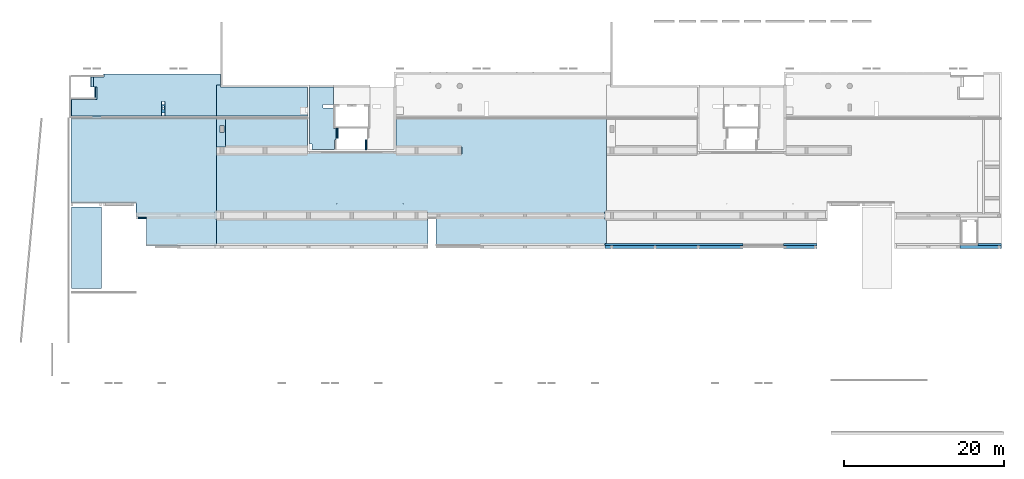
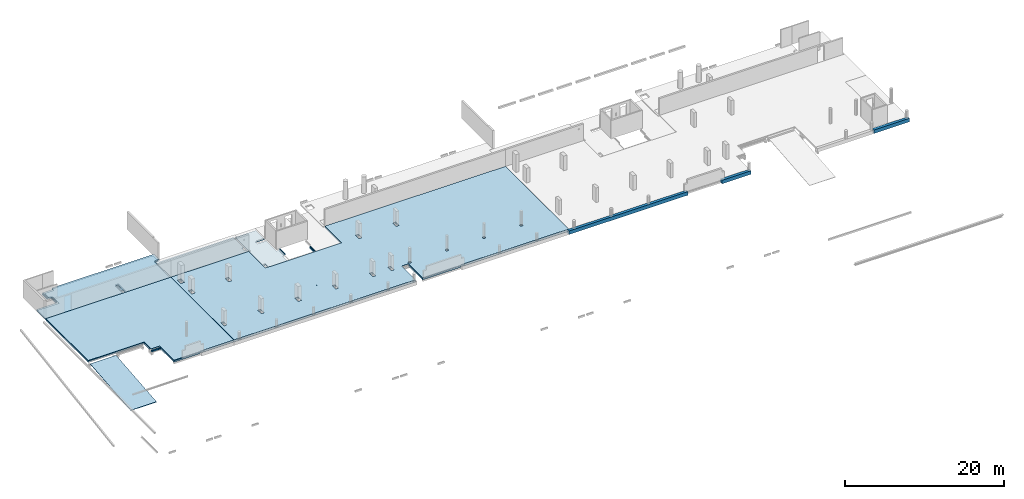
# One storey, part 4 of 10: 17 slabs, 4 beams, 24 openings.
"""IFC2X3 building model written with IfcOpenShell, lengths in millimetres."""

from ifc_helpers import new_model, entity, si_unit, converted_unit, derived_unit, direction, frame, frame_2d, origin, origin_2d_with_axis, place, context, subcontext, project, spatial, polyline, rectangle, circle, outline, extrude, clip, halfspace, faceted_brep, material, layer, layer_set, layer_usage, type_object, element, save


model = new_model("IFC2X3")

# Units and contexts
model_context = context("Model", 3, precision=0.01, world=origin(), true_north=direction((6.12303176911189e-17, 1.0)))
body_context = subcontext(model_context, "Body", "Model", "MODEL_VIEW")
ifc_project = project(units=[si_unit("LENGTHUNIT", "METRE", prefix="MILLI"), si_unit("AREAUNIT", "SQUARE_METRE"), si_unit("VOLUMEUNIT", "CUBIC_METRE"), converted_unit("PLANEANGLEUNIT", "DEGREE", entity("IfcRatioMeasure", 0.0174532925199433), si_unit("PLANEANGLEUNIT", "RADIAN"), dimensions=[0, 0, 0, 0, 0, 0, 0]), si_unit("MASSUNIT", "GRAM", prefix="KILO"), derived_unit("MASSDENSITYUNIT", [(si_unit("MASSUNIT", "GRAM", prefix="KILO"), 1), (si_unit("LENGTHUNIT", "METRE"), -3)]), si_unit("TIMEUNIT", "SECOND"), si_unit("FREQUENCYUNIT", "HERTZ"), si_unit("THERMODYNAMICTEMPERATUREUNIT", "DEGREE_CELSIUS"), derived_unit("THERMALTRANSMITTANCEUNIT", [(si_unit("MASSUNIT", "GRAM", prefix="KILO"), 1), (si_unit("THERMODYNAMICTEMPERATUREUNIT", "KELVIN"), -1), (si_unit("TIMEUNIT", "SECOND"), -3)]), derived_unit("VOLUMETRICFLOWRATEUNIT", [(si_unit("LENGTHUNIT", "METRE"), 3), (si_unit("TIMEUNIT", "SECOND"), -1)]), si_unit("ELECTRICCURRENTUNIT", "AMPERE"), si_unit("ELECTRICVOLTAGEUNIT", "VOLT"), si_unit("POWERUNIT", "WATT"), si_unit("FORCEUNIT", "NEWTON", prefix="KILO"), si_unit("ILLUMINANCEUNIT", "LUX"), si_unit("LUMINOUSFLUXUNIT", "LUMEN"), si_unit("LUMINOUSINTENSITYUNIT", "CANDELA"), derived_unit("USERDEFINED", [(si_unit("MASSUNIT", "GRAM", prefix="KILO"), -1), (si_unit("LENGTHUNIT", "METRE"), -2), (si_unit("TIMEUNIT", "SECOND"), 3), (si_unit("LUMINOUSFLUXUNIT", "LUMEN"), 1)]), derived_unit("LINEARVELOCITYUNIT", [(si_unit("LENGTHUNIT", "METRE"), 1), (si_unit("TIMEUNIT", "SECOND"), -1)]), si_unit("PRESSUREUNIT", "PASCAL"), derived_unit("USERDEFINED", [(si_unit("LENGTHUNIT", "METRE"), -2), (si_unit("MASSUNIT", "GRAM", prefix="KILO"), 1), (si_unit("TIMEUNIT", "SECOND"), -2)])], contexts=[model_context])

# Site, building, storey
site_placement = place(None, origin())
site = spatial("IfcSite", under=ifc_project, at=site_placement, Name="Default", CompositionType="ELEMENT")
building_placement = place(site_placement, origin())
building = spatial("IfcBuilding", under=site, at=building_placement, Name="niet gebruiken", CompositionType="ELEMENT")
storey_placement = place(building_placement, frame((0.0, 0.0, 6610.0)))
storey = spatial("IfcBuildingStorey", under=building, at=storey_placement, Name="01c derde tussenverdieping", CompositionType="ELEMENT", Elevation=6610.0)

# Beams
ifc_material_1 = material(Name="NLRS_f2_beton prefab")
beam_type_1 = type_object("IfcBeamType", Name="NLRS_28.11_SF_WPB_prefabbeton balk enkele sponning_gen:600x540/200x200", PredefinedType="BEAM")
beam_1_placement = place(storey_placement, frame((74750.0, 24776.0, -530.0)))
element("IfcBeam", 1, at=beam_1_placement, inside=storey, type_object=beam_type_1, material=ifc_material_1, Name="NLRS_28.11_SF_WPB_prefabbeton balk enkele sponning_gen:600x540/200x200", ObjectType="NLRS_28.11_SF_WPB_prefabbeton balk enkele sponning_gen:600x540/200x200", context=body_context, shape_type="Brep", body=[
    faceted_brep([(0.0, 600.0, 0.0), (0.0, 0.0, 0.0), (0.0, 0.0, 540.0), (0.0, 400.0, 540.0), (0.0, 400.0, 530.0), (0.0, 400.0, 460.0), (0.0, 400.0, 200.0), (0.0, 600.0, 200.0), (17250.0, 600.0, 200.0), (17250.0, 400.0, 200.0), (17250.0, 400.0, 460.0), (17250.0, 325.0, 460.0), (17250.0, 325.0, 530.0), (17250.0, 400.0, 530.0), (17250.0, 400.0, 540.0), (17250.0, 0.0, 540.0), (17250.0, 0.0, 0.0), (17250.0, 600.0, 0.0), (16850.0, 400.0, 530.0), (16850.0, 400.0, 460.0), (16850.0, 325.0, 460.0), (16850.0, 325.0, 530.0)], [[[0, 1, 2, 3, 4, 5, 6, 7]], [[8, 9, 10, 11, 12, 13, 14, 15, 16, 17]], [[3, 2, 15, 14]], [[3, 14, 13, 18, 19, 10, 9, 6, 5, 4]], [[7, 6, 9, 8]], [[0, 7, 8, 17]], [[1, 0, 17, 16]], [[2, 1, 16, 15]], [[19, 20, 11, 10]], [[20, 21, 12, 11]], [[20, 19, 18, 21]], [[21, 18, 13, 12]]]),
])
beam_2_placement = place(storey_placement, frame((97000.0, 24776.0, -530.0)))
element("IfcBeam", 2, at=beam_2_placement, inside=storey, type_object=beam_type_1, material=ifc_material_1, Name="NLRS_28.11_SF_WPB_prefabbeton balk enkele sponning_gen:600x540/200x200", ObjectType="NLRS_28.11_SF_WPB_prefabbeton balk enkele sponning_gen:600x540/200x200", context=body_context, shape_type="Brep", body=[
    faceted_brep([(0.0, 600.0, 0.0), (0.0, 0.0, 0.0), (0.0, 0.0, 540.0), (0.0, 400.0, 540.0), (0.0, 400.0, 530.0), (0.0, 325.0, 530.0), (0.0, 325.0, 460.0), (0.0, 400.0, 460.0), (0.0, 400.0, 200.0), (0.0, 600.0, 200.0), (4205.0, 600.0, 200.0), (4205.0, 400.0, 200.0), (4205.0, 400.0, 460.0), (4205.0, 400.0, 530.0), (4205.0, 400.0, 540.0), (4205.0, 0.0, 540.0), (4205.0, 0.0, 0.0), (4205.0, 600.0, 0.0), (400.0, 400.0, 460.0), (400.0, 400.0, 530.0), (400.0, 325.0, 460.0), (400.0, 325.0, 530.0)], [[[0, 1, 2, 3, 4, 5, 6, 7, 8, 9]], [[10, 11, 12, 13, 14, 15, 16, 17]], [[3, 2, 15, 14]], [[3, 14, 13, 12, 11, 8, 7, 18, 19, 4]], [[9, 8, 11, 10]], [[0, 9, 10, 17]], [[1, 0, 17, 16]], [[2, 1, 16, 15]], [[20, 18, 7, 6]], [[18, 20, 21, 19]], [[21, 20, 6, 5]], [[19, 21, 5, 4]]]),
])
beam_3_placement = place(storey_placement, frame((119020.0, 24776.0, -530.0)))
element("IfcBeam", 3, at=beam_3_placement, inside=storey, type_object=beam_type_1, material=ifc_material_1, Name="NLRS_28.11_SF_WPB_prefabbeton balk enkele sponning_gen:600x540/200x200", ObjectType="NLRS_28.11_SF_WPB_prefabbeton balk enkele sponning_gen:600x540/200x200", context=body_context, shape_type="Brep", body=[
    faceted_brep([(0.0, 0.0, 540.0), (0.0, 400.0, 540.0), (0.0, 400.0, 530.0), (0.0, 400.0, 460.0), (0.0, 400.0, 0.0), (0.0, 0.0, 0.0), (5180.0, 600.0, 200.0), (5180.0, 400.0, 200.0), (5180.0, 400.0, 460.0), (5180.0, 400.0, 530.0), (5180.0, 400.0, 540.0), (5180.0, 0.0, 540.0), (5180.0, 0.0, 0.0), (5180.0, 600.0, 0.0), (2225.0, 400.0, 200.0), (2225.0, 400.0, 0.0), (2225.0, 600.0, 200.0), (2225.0, 600.0, 0.0)], [[[0, 1, 2, 3, 4, 5]], [[6, 7, 8, 9, 10, 11, 12, 13]], [[1, 0, 11, 10]], [[7, 14, 15, 4, 3, 2, 1, 10, 9, 8]], [[7, 6, 16, 14]], [[6, 13, 17, 16]], [[13, 12, 5, 4, 15, 17]], [[0, 5, 12, 11]], [[15, 14, 16, 17]]]),
])
beam_type_2 = type_object("IfcBeamType", Name="NLRS_28.11_SF_WPB_prefabbeton balk recht_gen:200x140", PredefinedType="BEAM")
beam_4_placement = place(storey_placement, frame((16345.0, 28481.0, -330.0)))
element("IfcBeam", 4, at=beam_4_placement, inside=storey, type_object=beam_type_2, material=ifc_material_1, Name="NLRS_28.11_SF_WPB_prefabbeton balk recht_gen:200x140", ObjectType="NLRS_28.11_SF_WPB_prefabbeton balk recht_gen:200x140", context=body_context, shape_type="Brep", body=[
    faceted_brep([(0.0, 200.0, 140.0), (0.0, 200.0, 0.0), (0.0, 0.0, 0.0), (0.0, 0.0, 140.0), (1270.0, 0.0, 0.0), (1270.0, 200.0, 0.0), (1270.0, 200.0, 140.0), (1270.0, 180.0, 140.0), (1270.0, 180.0, 5.0), (1270.0, 0.0, 5.0), (1250.0, 0.0, 5.0), (1250.0, 0.0, 140.0), (1250.0, 180.0, 140.0), (1250.0, 180.0, 5.0)], [[[0, 1, 2, 3]], [[4, 5, 6, 7, 8, 9]], [[1, 0, 6, 5]], [[2, 1, 5, 4]], [[3, 2, 4, 9, 10, 11]], [[0, 3, 11, 12, 7, 6]], [[8, 13, 10, 9]], [[10, 13, 12, 11]], [[13, 8, 7, 12]]]),
])

# Slabs
ifc_layer_1 = layer(ifc_material_1, 255.0)
ifc_layer_set_1 = layer_set([ifc_layer_1], Name="Floor:NLRS_23.21_FL_kanaalplaat d=255_gen")
ifc_layer_usage_1 = layer_usage(ifc_layer_set_1, "AXIS3", "POSITIVE", 0.0)
slab_1_placement = place(storey_placement, origin())
element("IfcSlab", 5, at=slab_1_placement, inside=storey, material=ifc_layer_usage_1, Name="Floor:NLRS_23.21_FL_kanaalplaat d=255_gen", ObjectType="Floor:NLRS_23.21_FL_kanaalplaat d=255_gen", PredefinedType="FLOOR", context=body_context, shape_type="SweptSolid", body=[
    extrude(outline(polyline([(-2024.99314767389, -11025.0), (8560.00685232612, -11025.0), (8560.00685232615, 7090.0), (-3155.02055697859, 7090.0), (-3155.02055697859, 6860.0), (-3379.99314767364, 6860.0), (-3379.99314767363, -2925.0), (-2024.99314767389, -2925.0), (-2024.99314767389, -11025.0)])), frame((19260.0, 32480.9931476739, -70.0), z_axis=(0.0, 0.0, -1.0), x_axis=(0.0, 1.0, 0.0)), (0.0, 0.0, 1.0), 255.000000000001),
])
ifc_layer_usage_2 = layer_usage(ifc_layer_set_1, "AXIS3", "POSITIVE", 0.0)
slab_2_placement = place(storey_placement, origin())
element("IfcSlab", 6, at=slab_2_placement, inside=storey, material=ifc_layer_usage_2, Name="Floor:NLRS_23.21_FL_kanaalplaat d=255_gen", ObjectType="Floor:NLRS_23.21_FL_kanaalplaat d=255_gen", PredefinedType="FLOOR", context=body_context, shape_type="SweptSolid", body=[
    extrude(rectangle(XDim=3240.00000000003, YDim=26329.9999999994, at=frame_2d((2.1600499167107e-12, 1.81898940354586e-12), x_axis=(1.0, 0.0))), frame((39535.0, 26816.0, -70.0), z_axis=(0.0, 0.0, -1.0), x_axis=(0.0, 1.0, 0.0)), (0.0, 0.0, 1.0), 255.000000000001),
])
ifc_layer_usage_3 = layer_usage(ifc_layer_set_1, "AXIS3", "POSITIVE", 0.0)
slab_3_placement = place(storey_placement, frame((26370.0, 29101.0, -325.0)))
element("IfcSlab", 7, at=slab_3_placement, inside=storey, material=ifc_layer_usage_3, Name="Floor:NLRS_23.21_FL_kanaalplaat d=255_gen", ObjectType="Floor:NLRS_23.21_FL_kanaalplaat d=255_gen", PredefinedType="FLOOR", context=body_context, shape_type="SweptSolid", body=[
    extrude(rectangle(XDim=3614.99999999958, YDim=10199.999999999, at=frame_2d((18105.0, 4162.49999999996), x_axis=(0.0, -1.0))), frame((24290.0, 5970.0, 255.0), z_axis=(0.0, 0.0, -1.0), x_axis=(-1.0, 0.0, 0.0)), (0.0, 0.0, 1.0), 255.000000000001),
])

# Slab, openings
slab_4_placement = place(storey_placement, frame((26370.0, 29101.0, -325.0)))
slab_4 = element("IfcSlab", 8, at=slab_4_placement, inside=storey, material=ifc_layer_usage_3, Name="Floor:NLRS_23.21_FL_kanaalplaat d=255_gen:2", ObjectType="Floor:NLRS_23.21_FL_kanaalplaat d=255_gen", PredefinedType="FLOOR", context=body_context, shape_type="SweptSolid", body=[
    extrude(outline(polyline([(-2000.0, -5745.02740930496), (24290.0, -5745.02740930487), (24290.0, 1465.0), (12985.0, 1465.0), (12985.0, 1765.0), (1935.0, 1765.0), (1935.0, 1465.0), (-6260.0, 1465.0), (-6260.0, 2355.0), (1915.0, 2355.0), (1915.0, 5970.0), (-24290.0, 5970.0), (-24290.0, -5745.0), (-24070.0, -5745.0), (-24070.0, -5970.0), (-2000.0, -5970.0), (-2000.0, -5745.02740930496)])), frame((24290.0, 5970.0, 255.0), z_axis=(0.0, 0.0, -1.0), x_axis=(-1.0, 0.0, 0.0)), (0.0, 0.0, 1.0), 255.000000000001),
])
opening_1_placement = place(storey_placement, frame((26370.0, 29101.0, -325.0)))
element("IfcOpeningElement", 9, at=opening_1_placement, cuts=slab_4, ObjectType="Opening", context=body_context, shape_type="SweptSolid", body=[
    extrude(circle(Radius=37.5, at=frame_2d((1060.0, -4715.0), x_axis=(1.0, 0.0))), frame((24290.0, 5970.0, 255.0), z_axis=(0.0, 0.0, -1.0), x_axis=(-1.0, 0.0, 0.0)), (0.0, 0.0, 1.0), 255.000000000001),
])
opening_2_placement = place(storey_placement, frame((26370.0, 29101.0, -325.0)))
element("IfcOpeningElement", 10, at=opening_2_placement, cuts=slab_4, ObjectType="Opening", context=body_context, shape_type="SweptSolid", body=[
    extrude(circle(Radius=37.5, at=frame_2d((9310.0, -4715.0), x_axis=(1.0, 0.0))), frame((24290.0, 5970.0, 255.0), z_axis=(0.0, 0.0, -1.0), x_axis=(-1.0, 0.0, 0.0)), (0.0, 0.0, 1.0), 255.000000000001),
])

ifc_material_2 = material(Name="NLRS_f2_beton ihwg")
ifc_layer_2 = layer(ifc_material_2, 70.0)
ifc_layer_set_2 = layer_set([ifc_layer_2], Name="Floor:NLRS_23.21_FL_druklaag d=70 - gevlinderd en ingestrooid_gen")
ifc_layer_usage_4 = layer_usage(ifc_layer_set_2, "AXIS3", "POSITIVE", 0.0)
slab_5_placement = place(storey_placement, frame((26370.0, 25101.0, -70.0)))
slab_5 = element("IfcSlab", 11, at=slab_5_placement, inside=storey, material=ifc_layer_usage_4, Name="Floor:NLRS_23.21_FL_druklaag d=70 - gevlinderd en ingestrooid_gen", ObjectType="Floor:NLRS_23.21_FL_druklaag d=70 - gevlinderd en ingestrooid_gen", PredefinedType="FLOOR", context=body_context, shape_type="SweptSolid", body=[
    extrude(outline(polyline([(24290.0, -7905.0), (24290.0, 7980.0), (12985.0, 7980.0), (12985.0, 3775.0), (1935.0, 3775.0), (1935.0, 7980.0), (-24290.0, 7980.0), (-24290.0, -7905.0), (-8540.0, -7905.0), (-8540.0, -7980.0), (-3030.0, -7980.0), (-3030.0, -4400.0), (-2040.0, -4400.0), (-2040.0, -7905.0), (24290.0, -7905.0)])), frame((24290.0, 7980.0, 70.0), z_axis=(0.0, 0.0, -1.0), x_axis=(-1.0, 0.0, 0.0)), (0.0, 0.0, 1.0), 70.0000000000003),
])
opening_3_placement = place(storey_placement, frame((26370.0, 25101.0, -70.0)))
element("IfcOpeningElement", 12, at=opening_3_placement, cuts=slab_5, ObjectType="Opening", context=body_context, shape_type="SweptSolid", body=[
    extrude(circle(Radius=37.5, at=frame_2d((1060.0, -2725.0), x_axis=(1.0, 0.0))), frame((24290.0, 7980.0, 70.0), z_axis=(0.0, 0.0, -1.0), x_axis=(-1.0, 0.0, 0.0)), (0.0, 0.0, 1.0), 70.0000000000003),
])
opening_4_placement = place(storey_placement, frame((26370.0, 25101.0, -70.0)))
element("IfcOpeningElement", 13, at=opening_4_placement, cuts=slab_5, ObjectType="Opening", context=body_context, shape_type="SweptSolid", body=[
    extrude(circle(Radius=37.5, at=frame_2d((9310.0, -2725.0), x_axis=(1.0, 0.0))), frame((24290.0, 7980.0, 70.0), z_axis=(0.0, 0.0, -1.0), x_axis=(-1.0, 0.0, 0.0)), (0.0, 0.0, 1.0), 70.0000000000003),
])
opening_5_placement = place(slab_5_placement, frame((655.0, 14555.0, 70.0)))
element("IfcOpeningElement", 14, at=opening_5_placement, cuts=slab_5, Name="Floor:NLRS_23.21_FL_druklaag d=70 - gevlinderd en ingestrooid_gen:2", ObjectType="Opening", context=body_context, shape_type="SweptSolid", body=[
    extrude(rectangle(XDim=849.999999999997, YDim=499.999999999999, at=origin_2d_with_axis()), frame((0.0, 0.0, 0.0), z_axis=(0.0, 0.0, -1.0), x_axis=(0.0, -1.0, 0.0)), (0.0, 0.0, 1.0), 70.0000000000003),
])
opening_6_placement = place(slab_5_placement, frame((6030.0, 11880.0, 70.0)))
element("IfcOpeningElement", 15, at=opening_6_placement, cuts=slab_5, Name="Floor:NLRS_23.21_FL_druklaag d=70 - gevlinderd en ingestrooid_gen:3", ObjectType="Opening", context=body_context, shape_type="SweptSolid", body=[
    extrude(rectangle(XDim=850.000000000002, YDim=499.999999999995, at=origin_2d_with_axis()), frame((0.0, 0.0, 0.0), z_axis=(0.0, 0.0, -1.0), x_axis=(0.0, -1.0, 0.0)), (0.0, 0.0, 1.0), 70.0000000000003),
])
opening_7_placement = place(slab_5_placement, frame((655.0, 11880.0, 70.0)))
element("IfcOpeningElement", 16, at=opening_7_placement, cuts=slab_5, Name="Floor:NLRS_23.21_FL_druklaag d=70 - gevlinderd en ingestrooid_gen:4", ObjectType="Opening", context=body_context, shape_type="SweptSolid", body=[
    extrude(rectangle(XDim=500.000000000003, YDim=850.000000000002, at=origin_2d_with_axis()), frame((0.0, 0.0, 0.0), z_axis=(0.0, 0.0, -1.0), x_axis=(-1.0, 0.0, 0.0)), (0.0, 0.0, 1.0), 70.0000000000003),
])
opening_8_placement = place(slab_5_placement, frame((24905.0, 11880.0, 70.0)))
element("IfcOpeningElement", 17, at=opening_8_placement, cuts=slab_5, Name="Floor:NLRS_23.21_FL_druklaag d=70 - gevlinderd en ingestrooid_gen:5", ObjectType="Opening", context=body_context, shape_type="SweptSolid", body=[
    extrude(rectangle(XDim=400.000000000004, YDim=849.999999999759, at=origin_2d_with_axis()), frame((0.0, 0.0, 0.0), z_axis=(0.0, 0.0, -1.0), x_axis=(-1.0, 0.0, 0.0)), (0.0, 0.0, 1.0), 70.0000000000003),
])
opening_9_placement = place(slab_5_placement, frame((30305.0, 11880.0, 70.0)))
element("IfcOpeningElement", 18, at=opening_9_placement, cuts=slab_5, Name="Floor:NLRS_23.21_FL_druklaag d=70 - gevlinderd en ingestrooid_gen:6", ObjectType="Opening", context=body_context, shape_type="SweptSolid", body=[
    extrude(rectangle(XDim=399.999999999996, YDim=850.000000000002, at=origin_2d_with_axis()), frame((0.0, 0.0, 0.0), z_axis=(0.0, 0.0, -1.0), x_axis=(-1.0, 0.0, 0.0)), (0.0, 0.0, 1.0), 70.0000000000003),
])
opening_10_placement = place(slab_5_placement, frame((655.450424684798, 3780.0, 70.0)))
element("IfcOpeningElement", 19, at=opening_10_placement, cuts=slab_5, Name="Floor:NLRS_23.21_FL_druklaag d=70 - gevlinderd en ingestrooid_gen:7", ObjectType="Opening", context=body_context, shape_type="SweptSolid", body=[
    extrude(rectangle(XDim=849.999999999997, YDim=400.900849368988, at=origin_2d_with_axis()), frame((0.0, 0.0, 0.0), z_axis=(0.0, 0.0, -1.0), x_axis=(0.0, -1.0, 0.0)), (0.0, 0.0, 1.0), 70.0000000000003),
])
opening_11_placement = place(slab_5_placement, frame((6030.0, 3780.0, 70.0)))
element("IfcOpeningElement", 20, at=opening_11_placement, cuts=slab_5, Name="Floor:NLRS_23.21_FL_druklaag d=70 - gevlinderd en ingestrooid_gen:8", ObjectType="Opening", context=body_context, shape_type="SweptSolid", body=[
    extrude(rectangle(XDim=850.000000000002, YDim=400.0, at=origin_2d_with_axis()), frame((0.0, 0.0, 0.0), z_axis=(0.0, 0.0, -1.0), x_axis=(0.0, -1.0, 0.0)), (0.0, 0.0, 1.0), 70.0000000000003),
])
opening_12_placement = place(slab_5_placement, frame((11432.2547240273, 3780.0, 70.0)))
element("IfcOpeningElement", 21, at=opening_12_placement, cuts=slab_5, Name="Floor:NLRS_23.21_FL_druklaag d=70 - gevlinderd en ingestrooid_gen:9", ObjectType="Opening", context=body_context, shape_type="SweptSolid", body=[
    extrude(rectangle(XDim=850.000000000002, YDim=504.509448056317, at=origin_2d_with_axis()), frame((0.0, 0.0, 0.0), z_axis=(0.0, 0.0, -1.0), x_axis=(0.0, -1.0, 0.0)), (0.0, 0.0, 1.0), 70.0000000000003),
])
opening_13_placement = place(slab_5_placement, frame((16830.0, 3780.0, 70.0)))
element("IfcOpeningElement", 22, at=opening_13_placement, cuts=slab_5, Name="Floor:NLRS_23.21_FL_druklaag d=70 - gevlinderd en ingestrooid_gen:10", ObjectType="Opening", context=body_context, shape_type="SweptSolid", body=[
    extrude(rectangle(XDim=850.000000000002, YDim=399.999999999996, at=origin_2d_with_axis()), frame((0.0, 0.0, 0.0), z_axis=(0.0, 0.0, -1.0), x_axis=(0.0, -1.0, 0.0)), (0.0, 0.0, 1.0), 70.0000000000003),
])
opening_14_placement = place(slab_5_placement, frame((22230.0, 3780.0, 70.0)))
element("IfcOpeningElement", 23, at=opening_14_placement, cuts=slab_5, Name="Floor:NLRS_23.21_FL_druklaag d=70 - gevlinderd en ingestrooid_gen:11", ObjectType="Opening", context=body_context, shape_type="SweptSolid", body=[
    extrude(rectangle(XDim=850.000000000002, YDim=399.999999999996, at=origin_2d_with_axis()), frame((0.0, 0.0, 0.0), z_axis=(0.0, 0.0, -1.0), x_axis=(0.0, -1.0, 0.0)), (0.0, 0.0, 1.0), 70.0000000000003),
])
opening_15_placement = place(slab_5_placement, frame((24905.0, 3780.0, 70.0)))
element("IfcOpeningElement", 24, at=opening_15_placement, cuts=slab_5, Name="Floor:NLRS_23.21_FL_druklaag d=70 - gevlinderd en ingestrooid_gen:12", ObjectType="Opening", context=body_context, shape_type="SweptSolid", body=[
    extrude(rectangle(XDim=850.000000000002, YDim=399.999999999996, at=origin_2d_with_axis()), frame((0.0, 0.0, 0.0), z_axis=(0.0, 0.0, -1.0), x_axis=(0.0, -1.0, 0.0)), (0.0, 0.0, 1.0), 70.0000000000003),
])
opening_16_placement = place(slab_5_placement, frame((27630.0, 3780.0, 70.0)))
element("IfcOpeningElement", 25, at=opening_16_placement, cuts=slab_5, Name="Floor:NLRS_23.21_FL_druklaag d=70 - gevlinderd en ingestrooid_gen:13", ObjectType="Opening", context=body_context, shape_type="SweptSolid", body=[
    extrude(circle(Radius=200.0, at=origin_2d_with_axis()), frame((0.0, 0.0, 0.0), z_axis=(0.0, 0.0, -1.0), x_axis=(1.0, 0.0, 0.0)), (0.0, 0.0, 1.0), 70.0000000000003),
])
opening_17_placement = place(slab_5_placement, frame((33030.0, 3780.0, 70.0)))
element("IfcOpeningElement", 26, at=opening_17_placement, cuts=slab_5, Name="Floor:NLRS_23.21_FL_druklaag d=70 - gevlinderd en ingestrooid_gen:14", ObjectType="Opening", context=body_context, shape_type="SweptSolid", body=[
    extrude(circle(Radius=200.0, at=origin_2d_with_axis()), frame((0.0, 0.0, 0.0), z_axis=(0.0, 0.0, -1.0), x_axis=(1.0, 0.0, 0.0)), (0.0, 0.0, 1.0), 70.0000000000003),
])
opening_18_placement = place(slab_5_placement, frame((38430.0, 3780.0, 70.0)))
element("IfcOpeningElement", 27, at=opening_18_placement, cuts=slab_5, Name="Floor:NLRS_23.21_FL_druklaag d=70 - gevlinderd en ingestrooid_gen:15", ObjectType="Opening", context=body_context, shape_type="SweptSolid", body=[
    extrude(circle(Radius=200.0, at=origin_2d_with_axis()), frame((0.0, 0.0, 0.0), z_axis=(0.0, 0.0, -1.0), x_axis=(1.0, 0.0, 0.0)), (0.0, 0.0, 1.0), 70.0000000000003),
])
opening_19_placement = place(slab_5_placement, frame((43830.0, 3780.0, 70.0)))
element("IfcOpeningElement", 28, at=opening_19_placement, cuts=slab_5, Name="Floor:NLRS_23.21_FL_druklaag d=70 - gevlinderd en ingestrooid_gen:16", ObjectType="Opening", context=body_context, shape_type="SweptSolid", body=[
    extrude(circle(Radius=200.0, at=origin_2d_with_axis()), frame((0.0, 0.0, 0.0), z_axis=(0.0, 0.0, -1.0), x_axis=(1.0, 0.0, 0.0)), (0.0, 0.0, 1.0), 70.0000000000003),
])

# Slabs
ifc_layer_usage_5 = layer_usage(ifc_layer_set_2, "AXIS3", "POSITIVE", 0.0)
slab_6_placement = place(storey_placement, origin())
element("IfcSlab", 29, at=slab_6_placement, inside=storey, material=ifc_layer_usage_5, Name="Floor:NLRS_23.21_FL_druklaag d=70 - gevlinderd en ingestrooid_gen", ObjectType="Floor:NLRS_23.21_FL_druklaag d=70 - gevlinderd en ingestrooid_gen", PredefinedType="FLOOR", context=body_context, shape_type="SweptSolid", body=[
    extrude(outline(polyline([(337.0, -9758.0), (10972.0, -9758.0), (10972.0, 8367.0), (-4913.0, 8367.0), (-4913.0, 3417.0), (-4988.0, 3417.0), (-4988.0, -388.0), (-1408.0, -388.0), (-1408.0, -1638.0), (337.0, -1638.0), (337.0, -9758.0)])), frame((17983.0, 30089.0, 0.0), z_axis=(0.0, 0.0, -1.0), x_axis=(0.0, 1.0, 0.0)), (0.0, 0.0, 1.0), 70.0000000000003),
])
ifc_layer_usage_6 = layer_usage(ifc_layer_set_1, "AXIS3", "POSITIVE", 0.0)
slab_7_placement = place(storey_placement, origin())
element("IfcSlab", 30, at=slab_7_placement, inside=storey, material=ifc_layer_usage_6, Name="Floor:NLRS_23.21_FL_kanaalplaat d=255_gen", ObjectType="Floor:NLRS_23.21_FL_kanaalplaat d=255_gen", PredefinedType="FLOOR", context=body_context, shape_type="SweptSolid", body=[
    extrude(outline(polyline([(-1732.49999999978, -11947.4999999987), (1807.49999999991, -11947.4999999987), (1807.49999999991, 9092.50000000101), (1582.49999999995, 9092.50000000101), (1582.49999999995, 9312.50000000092), (-1657.50000000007, 9312.50000000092), (-1657.50000000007, -6457.50000000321), (-1732.49999999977, -6457.50000000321), (-1732.49999999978, -11947.4999999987)])), frame((65637.4999999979, 26853.5, -70.0), z_axis=(0.0, 0.0, -1.0), x_axis=(0.0, 1.0, 0.0)), (0.0, 0.0, 1.0), 255.000000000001),
])
ifc_layer_usage_7 = layer_usage(ifc_layer_set_1, "AXIS3", "POSITIVE", 0.0)
slab_8_placement = place(storey_placement, origin())
element("IfcSlab", 31, at=slab_8_placement, inside=storey, material=ifc_layer_usage_7, Name="Floor:NLRS_23.21_FL_kanaalplaat d=255_gen", ObjectType="Floor:NLRS_23.21_FL_kanaalplaat d=255_gen", PredefinedType="FLOOR", context=body_context, shape_type="SweptSolid", body=[
    extrude(outline(polyline([(-1732.49999999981, -5268.74999999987), (1807.49999999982, -5268.74999999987), (1807.49999999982, 3266.25000000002), (1582.4999999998, 3266.25000000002), (1582.4999999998, 3486.24999999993), (-1657.49999999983, 3486.24999999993), (-1657.49999999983, -1483.75000000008), (-1732.4999999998, -1483.75000000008), (-1732.49999999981, -5268.74999999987)])), frame((22863.7499999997, 26853.5000000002, -70.0), z_axis=(0.0, 0.0, -1.0), x_axis=(0.0, 1.0, 0.0)), (0.0, 0.0, 1.0), 255.000000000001),
])

# Slab, openings
ifc_layer_3 = layer(ifc_material_2, 250.0)
ifc_layer_set_3 = layer_set([ifc_layer_3], Name="Floor:NLRS_23.21_FL_breedplaat d=70/250_schil apart - gevlinderd_gen")
ifc_layer_usage_8 = layer_usage(ifc_layer_set_3, "AXIS3", "POSITIVE", 0.0)
slab_9_placement = place(storey_placement, frame((8225.0, 41061.0, -250.0)))
slab_9 = element("IfcSlab", 32, at=slab_9_placement, inside=storey, material=ifc_layer_usage_8, Name="Floor:NLRS_23.21_FL_breedplaat d=70/250_schil apart - gevlinderd_gen", ObjectType="Floor:NLRS_23.21_FL_breedplaat d=70/250_schil apart - gevlinderd_gen", PredefinedType="FLOOR", context=body_context, shape_type="SweptSolid", body=[
    extrude(outline(polyline([(9437.49999999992, -382.499999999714), (6512.50000000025, -382.499999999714), (6512.50000000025, 1147.49999999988), (7052.50000000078, 1147.49999999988), (7052.50000000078, 2397.49999999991), (5387.5000950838, 2397.49999999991), (5387.5000950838, 2717.49999999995), (-9437.49999999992, 2717.49999999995), (-9437.49999999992, 1397.49999999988), (-8687.49999999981, 1397.49999999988), (-8687.49999999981, -2717.49999999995), (9437.49999999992, -2717.49999999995), (9437.49999999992, -382.499999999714)])), frame((9437.49999999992, 2717.49999999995, 250.0), z_axis=(0.0, 0.0, -1.0), x_axis=(-1.0, 0.0, 0.0)), (0.0, 0.0, 1.0), 249.999999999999),
])
opening_20_placement = place(slab_9_placement, origin())
element("IfcOpeningElement", 33, at=opening_20_placement, cuts=slab_9, ObjectType="Opening", context=body_context, shape_type="SweptSolid", body=[
    extrude(rectangle(XDim=1250.0, YDim=110.000000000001, at=origin_2d_with_axis()), frame((2440.0, 4490.0, 120.0), z_axis=(0.0, 0.0, 1.0), x_axis=(0.0, -1.0, 0.0)), (0.0, 0.0, 1.0), 130.0),
])
opening_21_placement = place(slab_9_placement, origin())
element("IfcOpeningElement", 34, at=opening_21_placement, cuts=slab_9, ObjectType="Opening", context=body_context, shape_type="SweptSolid", body=[
    extrude(rectangle(XDim=110.000000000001, YDim=1270.00000000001, at=origin_2d_with_axis()), frame((2980.0, 3150.0, 120.0), z_axis=(0.0, 0.0, 1.0), x_axis=(-1.0, 0.0, 0.0)), (0.0, 0.0, 1.0), 130.0),
])
opening_22_placement = place(slab_9_placement, origin())
element("IfcOpeningElement", 35, at=opening_22_placement, cuts=slab_9, ObjectType="Opening", context=body_context, shape_type="SweptSolid", body=[
    extrude(rectangle(XDim=1800.00000000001, YDim=450.000000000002, at=origin_2d_with_axis()), frame((11470.0, 1150.0, 0.0), z_axis=(0.0, 0.0, 1.0), x_axis=(0.0, -1.0, 0.0)), (0.0, 0.0, 1.0), 249.999999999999),
])

# Slab, opening
ifc_layer_4 = layer(ifc_material_1, 70.0)
ifc_layer_set_4 = layer_set([ifc_layer_4], Name="Floor:NLRS_23.21_FL_breedplaatschil d=70_gen")
ifc_layer_usage_9 = layer_usage(ifc_layer_set_4, "AXIS3", "POSITIVE", 0.0)
slab_10_placement = place(storey_placement, frame((26370.0, 41291.0, -250.0)))
slab_10 = element("IfcSlab", 36, at=slab_10_placement, inside=storey, material=ifc_layer_usage_9, Name="Floor:NLRS_23.21_FL_breedplaatschil d=70_gen", ObjectType="Floor:NLRS_23.21_FL_breedplaatschil d=70_gen", PredefinedType="FLOOR", context=body_context, shape_type="SweptSolid", body=[
    extrude(outline(polyline([(5662.49999999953, 1932.49999999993), (5162.49999999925, 1932.49999999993), (5162.49999999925, 1702.49999999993), (-5662.49999999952, 1702.49999999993), (-5662.49999999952, -1932.49999999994), (5662.49999999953, -1932.49999999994), (5662.49999999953, 1932.49999999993)])), frame((5662.49999999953, 1932.49999999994, 70.0), z_axis=(0.0, 0.0, -1.0), x_axis=(-1.0, 0.0, 0.0)), (0.0, 0.0, 1.0), 70.0000000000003),
])
opening_23_placement = place(slab_10_placement, origin())
element("IfcOpeningElement", 37, at=opening_23_placement, cuts=slab_10, ObjectType="Opening", context=body_context, shape_type="SweptSolid", body=[
    extrude(rectangle(XDim=260.000000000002, YDim=614.999999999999, at=origin_2d_with_axis()), frame((11174.9998150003, 719.100191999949, 0.0), z_axis=(0.0, 0.0, 1.0), x_axis=(-1.0, 0.0, 0.0)), (0.0, 0.0, 1.0), 249.999999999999),
])

# Slabs
ifc_layer_usage_10 = layer_usage(ifc_layer_set_4, "AXIS3", "POSITIVE", 0.0)
slab_11_placement = place(storey_placement, frame((37905.0, 37086.0, -340.0)))
element("IfcSlab", 38, at=slab_11_placement, inside=storey, material=ifc_layer_usage_10, Name="Floor:NLRS_23.21_FL_breedplaatschil d=70_gen", ObjectType="Floor:NLRS_23.21_FL_breedplaatschil d=70_gen", PredefinedType="FLOOR", context=body_context, shape_type="SweptSolid", body=[
    extrude(outline(polyline([(2295.00015089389, 1250.0), (2295.00015089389, -1280.0), (1950.00021676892, -1280.0), (1950.00021676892, -2700.0), (2170.00021676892, -2700.0), (2170.00021676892, -3920.0), (4975.0, -3920.0), (4975.0, -3180.0), (5295.0, -3180.0), (5295.0, 3920.0), (2275.00015089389, 3920.0), (2275.00015089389, 1690.0), (3572.50015089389, 1690.0), (3572.50015089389, 1250.0), (2295.00015089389, 1250.0)])), frame((5295.0, 3920.0, 70.0), z_axis=(0.0, 0.0, -1.0), x_axis=(-1.0, 0.0, 0.0)), (0.0, 0.0, 1.0), 70.0000000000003),
])
ifc_layer_usage_11 = layer_usage(ifc_layer_set_4, "AXIS3", "POSITIVE", 0.0)
slab_12_placement = place(storey_placement, origin())
element("IfcSlab", 39, at=slab_12_placement, inside=storey, material=ifc_layer_usage_11, Name="Floor:NLRS_23.21_FL_breedplaatschil d=70_gen", ObjectType="Floor:NLRS_23.21_FL_breedplaatschil d=70_gen", PredefinedType="FLOOR", context=body_context, shape_type="Clipping", body=[
    clip(clip(extrude(rectangle(XDim=10225.397486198, YDim=3759.99999999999, at=origin_2d_with_axis()), frame((10125.0, 24876.0, -705.477145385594), z_axis=(0.0, 0.0941257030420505, -0.995560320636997), x_axis=(0.0, 0.995560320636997, 0.0941257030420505)), (-0.0941257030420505, 0.0, 0.995560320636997), 70.6257190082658), halfspace(frame((10125.0, 19425.4411853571, -1220.80270604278), z_axis=(0.0, -0.0941257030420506, 0.995560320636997), x_axis=(0.0, -0.995560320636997, -0.0941257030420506)), False)), halfspace(frame((10125.0, 19425.4411853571, -1291.11486950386), z_axis=(0.0, 0.0941257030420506, -0.995560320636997), x_axis=(0.0, 0.995560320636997, 0.0941257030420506)), False)),
])
ifc_layer_5 = layer(ifc_material_2, 250.0)
ifc_layer_set_5 = layer_set([ifc_layer_5], Name="Floor:NLRS_23.21_FL_breedplaat d=70/250_schil apart_gen")
ifc_layer_usage_12 = layer_usage(ifc_layer_set_5, "AXIS3", "POSITIVE", 0.0)
slab_13_placement = place(storey_placement, origin())
element("IfcSlab", 40, at=slab_13_placement, inside=storey, material=ifc_layer_usage_12, Name="Floor:NLRS_23.21_FL_breedplaat d=70/250_schil apart_gen", ObjectType="Floor:NLRS_23.21_FL_breedplaat d=70/250_schil apart_gen", PredefinedType="FLOOR", context=body_context, shape_type="SweptSolid", body=[
    extrude(outline(polyline([(-153.333333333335, -110.0), (96.6666666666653, -110.0), (96.6666666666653, 0.0), (56.6666666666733, 0.0), (56.6666666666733, 110.0), (-153.333333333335, 110.0), (-153.333333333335, -110.0)])), frame((41410.0, 38526.0, -186.666666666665), z_axis=(0.0, 1.0, 0.0), x_axis=(0.0, 0.0, 1.0)), (0.0, 0.0, 1.0), 1220.0),
])
ifc_layer_usage_13 = layer_usage(ifc_layer_set_4, "AXIS3", "POSITIVE", 0.0)
slab_14_placement = place(storey_placement, origin())
element("IfcSlab", 41, at=slab_14_placement, inside=storey, material=ifc_layer_usage_13, Name="Floor:NLRS_23.21_FL_breedplaatschil d=70_gen", ObjectType="Floor:NLRS_23.21_FL_breedplaatschil d=70_gen", PredefinedType="FLOOR", context=body_context, shape_type="SweptSolid", body=[
    extrude(outline(polyline([(-2689.37499999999, -8702.4999881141), (-604.374999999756, -8702.4999881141), (-604.374999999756, -5497.49998811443), (945.624999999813, -5497.49998811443), (945.624999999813, -5967.49998811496), (2175.62499999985, -5967.49998811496), (2175.62499999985, -4652.50008319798), (2535.62499999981, -4652.50008319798), (2535.62499999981, 9922.5000118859), (1195.62499999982, 9922.5000118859), (1195.62499999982, 9402.50001188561), (-2689.37499999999, 9402.50001188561), (-2689.37499999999, 2972.50001188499), (-869.374999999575, 2972.50001188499), (-869.374999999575, 2522.50001188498), (-2689.37499999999, 2522.50001188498), (-2689.37499999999, -8702.4999881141)])), frame((16947.4999881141, 43980.3750000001, -180.0), z_axis=(0.0, 0.0, -1.0), x_axis=(0.0, 1.0, 0.0)), (0.0, 0.0, 1.0), 70.0000000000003),
])

# Slab, opening
ifc_layer_6 = layer(ifc_material_2, 255.0)
ifc_layer_set_6 = layer_set([ifc_layer_6], Name="Floor:NLRS_23.21_FL_beton ihwg d=255_gen")
ifc_layer_usage_14 = layer_usage(ifc_layer_set_6, "AXIS3", "POSITIVE", 0.0)
slab_15_placement = place(storey_placement, frame((26370.0, 37426.0, -325.0)))
slab_15 = element("IfcSlab", 42, at=slab_15_placement, inside=storey, material=ifc_layer_usage_14, Name="Floor:NLRS_23.21_FL_beton ihwg d=255_gen", ObjectType="Floor:NLRS_23.21_FL_beton ihwg d=255_gen", PredefinedType="FLOOR", context=body_context, shape_type="SweptSolid", body=[
    extrude(rectangle(XDim=3634.99999999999, YDim=1085.0000000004, at=frame_2d((0.0, 0.0), x_axis=(0.0, -1.0))), frame((542.500000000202, 1817.49999999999, 255.0), z_axis=(0.0, 0.0, -1.0), x_axis=(-1.0, 0.0, 0.0)), (0.0, 0.0, 1.0), 255.000000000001),
])
opening_24_placement = place(slab_15_placement, frame((655.0, 2230.0, 255.0)))
element("IfcOpeningElement", 43, at=opening_24_placement, cuts=slab_15, Name="Floor:NLRS_23.21_FL_beton ihwg d=255_gen:2", ObjectType="Opening", context=body_context, shape_type="SweptSolid", body=[
    extrude(rectangle(XDim=849.999999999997, YDim=499.999999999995, at=origin_2d_with_axis()), frame((0.0, 0.0, 0.0), z_axis=(0.0, 0.0, -1.0), x_axis=(0.0, -1.0, 0.0)), (0.0, 0.0, 1.0), 255.000000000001),
])

# Slabs
ifc_layer_usage_15 = layer_usage(ifc_layer_set_5, "AXIS3", "POSITIVE", 0.0)
slab_16_placement = place(storey_placement, origin())
element("IfcSlab", 44, at=slab_16_placement, inside=storey, material=ifc_layer_usage_15, Name="Floor:NLRS_23.21_FL_breedplaat d=70/250_schil apart_gen", ObjectType="Floor:NLRS_23.21_FL_breedplaat d=70/250_schil apart_gen", PredefinedType="FLOOR", context=body_context, shape_type="SweptSolid", body=[
    extrude(outline(polyline([(-153.333333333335, -110.0), (56.6666666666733, -110.0), (56.6666666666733, 0.0), (96.6666666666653, 0.0), (96.6666666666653, 110.0), (-153.333333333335, 110.0), (-153.333333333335, -110.0)])), frame((44990.0, 37106.0, -186.666666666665), z_axis=(0.0, 1.0, 0.0), x_axis=(0.0, 0.0, 1.0)), (0.0, 0.0, 1.0), 1220.0),
])
ifc_layer_7 = layer(ifc_material_2, 250.0)
ifc_layer_set_7 = layer_set([ifc_layer_7], Name="Floor:NLRS_23.21_FL_beton ihwg d=250_gen")
ifc_layer_usage_16 = layer_usage(ifc_layer_set_7, "AXIS3", "POSITIVE", 0.0)
slab_17_placement = place(storey_placement, origin())
element("IfcSlab", 45, at=slab_17_placement, inside=storey, material=ifc_layer_usage_16, Name="Floor:NLRS_23.21_FL_beton ihwg d=250_gen", ObjectType="Floor:NLRS_23.21_FL_beton ihwg d=250_gen", PredefinedType="FLOOR", context=body_context, shape_type="SweptSolid", body=[
    extrude(outline(polyline([(-900.0, -225.0), (900.0, -225.0), (900.0, 225.0), (-900.0, 225.0), (-900.0, -225.0)]), holes=[polyline([(-348.809530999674, 98.9997340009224), (-148.809530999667, 98.9997340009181), (-148.809530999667, -101.00026599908), (-348.809530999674, -101.00026599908), (-348.809530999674, 98.9997340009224)]), polyline([(-874.999530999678, 173.999734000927), (-524.999530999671, 173.999734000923), (-524.999530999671, -176.000265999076), (-874.999530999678, -176.000265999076), (-874.999530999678, 173.999734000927)]), polyline([(-98.8095309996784, 98.9997340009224), (101.190469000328, 98.9997340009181), (101.190469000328, -101.00026599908), (-98.8095309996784, -101.00026599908), (-98.8095309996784, 98.9997340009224)]), polyline([(524.840469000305, 173.999734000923), (874.840469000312, 173.999734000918), (874.840469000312, -176.00026599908), (524.840469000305, -176.00026599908), (524.840469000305, 173.999734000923)])]), frame((19695.0, 42211.0, -180.0), z_axis=(0.0, 0.0, 1.0), x_axis=(0.0, -1.0, 0.0)), (0.0, 0.0, 1.0), 179.999999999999),
])

save(model, "model.ifc")
